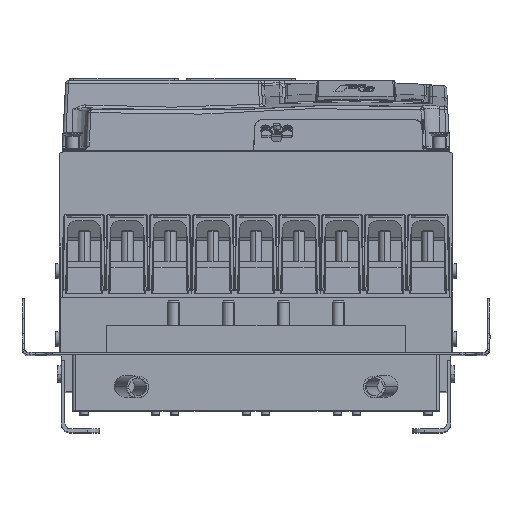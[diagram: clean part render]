
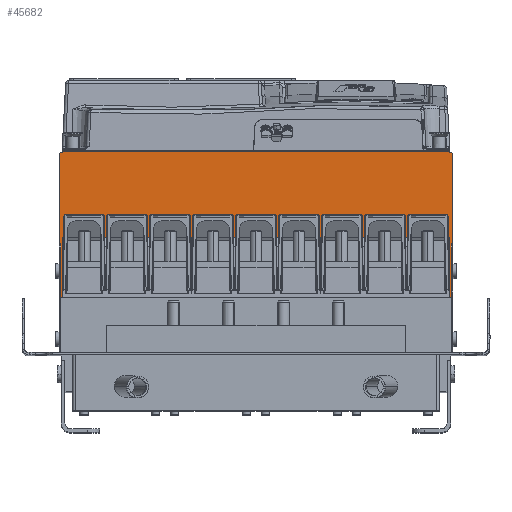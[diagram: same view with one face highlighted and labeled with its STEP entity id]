
A CAD part, top view. The second image highlights one B-rep face of the part: STEP entity #45682.
In plain terms, the highlighted planar face has unit normal (0, 0, 1).
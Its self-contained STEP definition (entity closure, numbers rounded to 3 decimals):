
#1008 = DIRECTION ( 'NONE',  ( 1., 0., 0. ) ) ;
#2943 = CARTESIAN_POINT ( 'NONE',  ( -163.5, -77., 453. ) ) ;
#2950 = DIRECTION ( 'NONE',  ( -1., 0., 0. ) ) ;
#3321 = ORIENTED_EDGE ( 'NONE', *, *, #7167, .F. ) ;
#6219 = CARTESIAN_POINT ( 'NONE',  ( 165., -3.5, 453. ) ) ;
#6949 = VECTOR ( 'NONE', #1008, 1000. ) ;
#7167 = EDGE_CURVE ( 'NONE', #34874, #26880, #77889, .T. ) ;
#10136 = VERTEX_POINT ( 'NONE', #19617 ) ;
#11860 = DIRECTION ( 'NONE',  ( 0., 1., 0. ) ) ;
#14925 = DIRECTION ( 'NONE',  ( -1., 0., 0. ) ) ;
#16556 = CARTESIAN_POINT ( 'NONE',  ( 165.001, -77., 453. ) ) ;
#16800 = VERTEX_POINT ( 'NONE', #2943 ) ;
#16881 = FACE_OUTER_BOUND ( 'NONE', #47176, .T. ) ;
#19617 = CARTESIAN_POINT ( 'NONE',  ( -165., -3.5, 453. ) ) ;
#19722 = VERTEX_POINT ( 'NONE', #82968 ) ;
#20406 = CARTESIAN_POINT ( 'NONE',  ( 0., -167.9, 453. ) ) ;
#21374 = VECTOR ( 'NONE', #11860, 1000. ) ;
#22671 = VERTEX_POINT ( 'NONE', #29349 ) ;
#22735 = EDGE_CURVE ( 'NONE', #26880, #16800, #78073, .T. ) ;
#22754 = VECTOR ( 'NONE', #88222, 1000. ) ;
#26880 = VERTEX_POINT ( 'NONE', #30802 ) ;
#28607 = CARTESIAN_POINT ( 'NONE',  ( -165., -3.5, 453. ) ) ;
#29349 = CARTESIAN_POINT ( 'NONE',  ( 165., -77., 453. ) ) ;
#29675 = LINE ( 'NONE', #28607, #22754 ) ;
#30342 = VERTEX_POINT ( 'NONE', #64318 ) ;
#30802 = CARTESIAN_POINT ( 'NONE',  ( -163.5, -167.9, 453. ) ) ;
#31052 = ORIENTED_EDGE ( 'NONE', *, *, #61889, .F. ) ;
#34008 = VERTEX_POINT ( 'NONE', #37342 ) ;
#34874 = VERTEX_POINT ( 'NONE', #91577 ) ;
#35654 = VECTOR ( 'NONE', #14925, 1000. ) ;
#37342 = CARTESIAN_POINT ( 'NONE',  ( 161.5, 0., 453. ) ) ;
#37990 = EDGE_CURVE ( 'NONE', #34008, #79971, #51930, .T. ) ;
#38783 = CARTESIAN_POINT ( 'NONE',  ( 161.5, -3.5, 453. ) ) ;
#39028 = DIRECTION ( 'NONE',  ( 0., 1., 0. ) ) ;
#40619 = LINE ( 'NONE', #16556, #35654 ) ;
#42168 = LINE ( 'NONE', #98540, #49532 ) ;
#42622 = CARTESIAN_POINT ( 'NONE',  ( 163.5, 0., 453. ) ) ;
#45682 = ADVANCED_FACE ( 'NONE', ( #16881 ), #66131, .F. ) ;
#47176 = EDGE_LOOP ( 'NONE', ( #31052, #103472, #56284, #74584, #3321, #88429, #101061, #62062, #91923, #68451 ) ) ;
#48645 = LINE ( 'NONE', #42622, #52373 ) ;
#49532 = VECTOR ( 'NONE', #82115, 1000. ) ;
#50263 = DIRECTION ( 'NONE',  ( 0., 1., 0. ) ) ;
#51930 = CIRCLE ( 'NONE', #107871, 3.5 ) ;
#52373 = VECTOR ( 'NONE', #58481, 1000. ) ;
#52415 = VECTOR ( 'NONE', #2950, 1000. ) ;
#55714 = DIRECTION ( 'NONE',  ( 0., 0., -1. ) ) ;
#56284 = ORIENTED_EDGE ( 'NONE', *, *, #91673, .T. ) ;
#58023 = EDGE_CURVE ( 'NONE', #22671, #79971, #105251, .T. ) ;
#58445 = AXIS2_PLACEMENT_3D ( 'NONE', #82564, #75434, #50263 ) ;
#58481 = DIRECTION ( 'NONE',  ( 0., -1., 0. ) ) ;
#61889 = EDGE_CURVE ( 'NONE', #10136, #30342, #78418, .T. ) ;
#62062 = ORIENTED_EDGE ( 'NONE', *, *, #58023, .T. ) ;
#63652 = CARTESIAN_POINT ( 'NONE',  ( 165., -3.5, 453. ) ) ;
#64318 = CARTESIAN_POINT ( 'NONE',  ( -161.5, 0., 453. ) ) ;
#66131 = PLANE ( 'NONE',  #58445 ) ;
#68451 = ORIENTED_EDGE ( 'NONE', *, *, #68989, .F. ) ;
#68989 = EDGE_CURVE ( 'NONE', #30342, #34008, #42168, .T. ) ;
#72188 = DIRECTION ( 'NONE',  ( 0., 1., 0. ) ) ;
#74140 = DIRECTION ( 'NONE',  ( 0., 0., -1. ) ) ;
#74584 = ORIENTED_EDGE ( 'NONE', *, *, #22735, .F. ) ;
#75434 = DIRECTION ( 'NONE',  ( 0., 0., -1. ) ) ;
#75973 = LINE ( 'NONE', #84707, #6949 ) ;
#77321 = EDGE_CURVE ( 'NONE', #19722, #34874, #48645, .T. ) ;
#77889 = LINE ( 'NONE', #20406, #52415 ) ;
#78073 = LINE ( 'NONE', #78594, #21374 ) ;
#78418 = CIRCLE ( 'NONE', #92378, 3.5 ) ;
#78594 = CARTESIAN_POINT ( 'NONE',  ( -163.5, 0., 453. ) ) ;
#79971 = VERTEX_POINT ( 'NONE', #63652 ) ;
#81367 = CARTESIAN_POINT ( 'NONE',  ( -165., -77., 453. ) ) ;
#82115 = DIRECTION ( 'NONE',  ( 1., 0., 0. ) ) ;
#82564 = CARTESIAN_POINT ( 'NONE',  ( 0., 0., 453. ) ) ;
#82968 = CARTESIAN_POINT ( 'NONE',  ( 163.5, -77., 453. ) ) ;
#84707 = CARTESIAN_POINT ( 'NONE',  ( -165.001, -77., 453. ) ) ;
#88222 = DIRECTION ( 'NONE',  ( 0., -1., 0. ) ) ;
#88429 = ORIENTED_EDGE ( 'NONE', *, *, #77321, .F. ) ;
#89932 = VECTOR ( 'NONE', #39028, 1000. ) ;
#91577 = CARTESIAN_POINT ( 'NONE',  ( 163.5, -167.9, 453. ) ) ;
#91673 = EDGE_CURVE ( 'NONE', #106781, #16800, #75973, .T. ) ;
#91923 = ORIENTED_EDGE ( 'NONE', *, *, #37990, .F. ) ;
#92378 = AXIS2_PLACEMENT_3D ( 'NONE', #99277, #74140, #107512 ) ;
#98540 = CARTESIAN_POINT ( 'NONE',  ( 0., 0., 453. ) ) ;
#99277 = CARTESIAN_POINT ( 'NONE',  ( -161.5, -3.5, 453. ) ) ;
#100555 = EDGE_CURVE ( 'NONE', #22671, #19722, #40619, .T. ) ;
#101061 = ORIENTED_EDGE ( 'NONE', *, *, #100555, .F. ) ;
#103472 = ORIENTED_EDGE ( 'NONE', *, *, #105641, .T. ) ;
#105251 = LINE ( 'NONE', #6219, #89932 ) ;
#105641 = EDGE_CURVE ( 'NONE', #10136, #106781, #29675, .T. ) ;
#106781 = VERTEX_POINT ( 'NONE', #81367 ) ;
#107512 = DIRECTION ( 'NONE',  ( 0., 1., 0. ) ) ;
#107871 = AXIS2_PLACEMENT_3D ( 'NONE', #38783, #55714, #72188 ) ;
